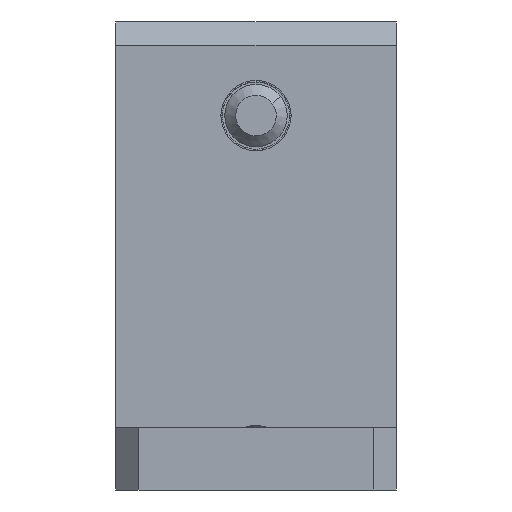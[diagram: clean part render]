
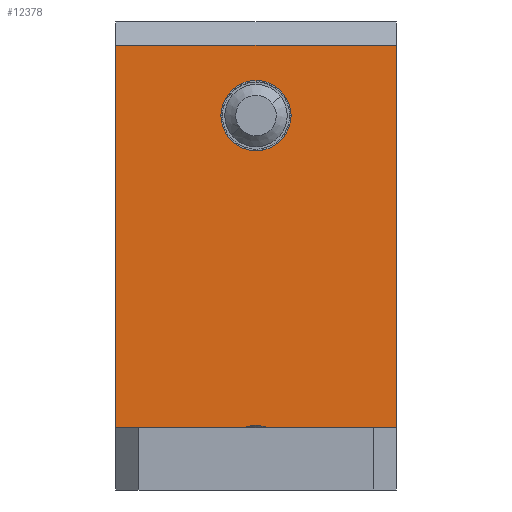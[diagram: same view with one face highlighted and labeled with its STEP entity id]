
A CAD part, left-side view. The second image highlights one B-rep face of the part: STEP entity #12378.
In plain terms, the highlighted planar face has unit normal (-1, 0, 0).
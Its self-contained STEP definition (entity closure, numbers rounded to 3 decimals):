
#73 = CARTESIAN_POINT ( 'NONE',  ( 4.039, 31.718, -11. ) ) ;
#153 = LINE ( 'NONE', #721, #10329 ) ;
#166 = CARTESIAN_POINT ( 'NONE',  ( 4.039, 30.968, 9. ) ) ;
#198 = CARTESIAN_POINT ( 'NONE',  ( 4.039, 30.968, 6.75 ) ) ;
#380 = CARTESIAN_POINT ( 'NONE',  ( 4.039, 30.968, 11.25 ) ) ;
#414 = EDGE_CURVE ( 'NONE', #8053, #8226, #6478, .T. ) ;
#453 = EDGE_LOOP ( 'NONE', ( #2518, #4882, #10097, #5724, #7055, #9910 ) ) ;
#721 = CARTESIAN_POINT ( 'NONE',  ( 4.039, 30.968, -11. ) ) ;
#832 = EDGE_CURVE ( 'NONE', #6673, #10553, #5151, .T. ) ;
#863 = VERTEX_POINT ( 'NONE', #380 ) ;
#1013 = DIRECTION ( 'NONE',  ( 0., 0., -1. ) ) ;
#1091 = PLANE ( 'NONE',  #5333 ) ;
#1485 = DIRECTION ( 'NONE',  ( 0., 0., -1. ) ) ;
#2220 = ORIENTED_EDGE ( 'NONE', *, *, #2867, .F. ) ;
#2231 = CARTESIAN_POINT ( 'NONE',  ( 4.039, 39.968, -11. ) ) ;
#2293 = DIRECTION ( 'NONE',  ( 0., -1., 0. ) ) ;
#2424 = CARTESIAN_POINT ( 'NONE',  ( 4.039, 21.968, 13.5 ) ) ;
#2518 = ORIENTED_EDGE ( 'NONE', *, *, #832, .F. ) ;
#2867 = EDGE_CURVE ( 'NONE', #863, #8248, #7352, .T. ) ;
#3054 = CARTESIAN_POINT ( 'NONE',  ( 4.039, 30.218, -11. ) ) ;
#3098 = CARTESIAN_POINT ( 'NONE',  ( 4.039, 31.23, -10.85 ) ) ;
#3441 = CARTESIAN_POINT ( 'NONE',  ( 4.039, 39.968, 13.5 ) ) ;
#3454 = CARTESIAN_POINT ( 'NONE',  ( 4.039, 21.968, -11. ) ) ;
#3650 = CARTESIAN_POINT ( 'NONE',  ( 4.039, 31.718, -11. ) ) ;
#3670 = EDGE_CURVE ( 'NONE', #8226, #6673, #3698, .T. ) ;
#3698 = LINE ( 'NONE', #8533, #9122 ) ;
#3894 = CARTESIAN_POINT ( 'NONE',  ( 4.039, 21.968, 13.5 ) ) ;
#4677 = DIRECTION ( 'NONE',  ( 0., 1., 0. ) ) ;
#4701 = EDGE_CURVE ( 'NONE', #10553, #5659, #4719, .T. ) ;
#4719 = LINE ( 'NONE', #12268, #8910 ) ;
#4882 = ORIENTED_EDGE ( 'NONE', *, *, #3670, .F. ) ;
#5151 = LINE ( 'NONE', #7245, #11818 ) ;
#5219 = DIRECTION ( 'NONE',  ( 0., 0., -1. ) ) ;
#5333 = AXIS2_PLACEMENT_3D ( 'NONE', #3894, #8942, #1013 ) ;
#5474 = CARTESIAN_POINT ( 'NONE',  ( 4.039, 30.968, 9. ) ) ;
#5659 = VERTEX_POINT ( 'NONE', #3454 ) ;
#5724 = ORIENTED_EDGE ( 'NONE', *, *, #11480, .F. ) ;
#6026 = CARTESIAN_POINT ( 'NONE',  ( 4.039, 30.714, -10.865 ) ) ;
#6272 = CARTESIAN_POINT ( 'NONE',  ( 4.039, 30.844, -10.849 ) ) ;
#6296 = DIRECTION ( 'NONE',  ( -1., 0., 0. ) ) ;
#6419 = AXIS2_PLACEMENT_3D ( 'NONE', #5474, #6296, #1485 ) ;
#6478 = LINE ( 'NONE', #11581, #10183 ) ;
#6548 = EDGE_LOOP ( 'NONE', ( #9333, #2220 ) ) ;
#6673 = VERTEX_POINT ( 'NONE', #3441 ) ;
#7021 = FACE_OUTER_BOUND ( 'NONE', #453, .T. ) ;
#7055 = ORIENTED_EDGE ( 'NONE', *, *, #7653, .F. ) ;
#7237 = DIRECTION ( 'NONE',  ( 0., 0., -1. ) ) ;
#7245 = CARTESIAN_POINT ( 'NONE',  ( 4.039, 30.968, 13.5 ) ) ;
#7352 = CIRCLE ( 'NONE', #6419, 2.25 ) ;
#7568 = DIRECTION ( 'NONE',  ( 0., 0., 1. ) ) ;
#7653 = EDGE_CURVE ( 'NONE', #5659, #9489, #153, .T. ) ;
#7998 = CARTESIAN_POINT ( 'NONE',  ( 4.039, 30.34, -10.956 ) ) ;
#8053 = VERTEX_POINT ( 'NONE', #3650 ) ;
#8226 = VERTEX_POINT ( 'NONE', #2231 ) ;
#8248 = VERTEX_POINT ( 'NONE', #198 ) ;
#8413 = CARTESIAN_POINT ( 'NONE',  ( 4.039, 30.218, -11. ) ) ;
#8533 = CARTESIAN_POINT ( 'NONE',  ( 4.039, 39.968, 1.25 ) ) ;
#8910 = VECTOR ( 'NONE', #7237, 1000. ) ;
#8942 = DIRECTION ( 'NONE',  ( 1., 0., 0. ) ) ;
#9122 = VECTOR ( 'NONE', #7568, 1000. ) ;
#9333 = ORIENTED_EDGE ( 'NONE', *, *, #12541, .F. ) ;
#9489 = VERTEX_POINT ( 'NONE', #8413 ) ;
#9910 = ORIENTED_EDGE ( 'NONE', *, *, #4701, .F. ) ;
#10097 = ORIENTED_EDGE ( 'NONE', *, *, #414, .F. ) ;
#10183 = VECTOR ( 'NONE', #4677, 1000. ) ;
#10279 = B_SPLINE_CURVE_WITH_KNOTS ( 'NONE', 3,
 ( #3054, #7998, #12212, #6026, #6272, #3098, #11191, #73 ),
 .UNSPECIFIED., .F., .F.,
 ( 4, 2, 2, 4 ),
 ( 0., 0., 0.001, 0.002 ),
 .UNSPECIFIED. ) ;
#10329 = VECTOR ( 'NONE', #10734, 1000. ) ;
#10553 = VERTEX_POINT ( 'NONE', #2424 ) ;
#10734 = DIRECTION ( 'NONE',  ( 0., 1., 0. ) ) ;
#10921 = AXIS2_PLACEMENT_3D ( 'NONE', #166, #11115, #5219 ) ;
#11115 = DIRECTION ( 'NONE',  ( -1., 0., 0. ) ) ;
#11191 = CARTESIAN_POINT ( 'NONE',  ( 4.039, 31.476, -10.913 ) ) ;
#11480 = EDGE_CURVE ( 'NONE', #9489, #8053, #10279, .T. ) ;
#11516 = CIRCLE ( 'NONE', #10921, 2.25 ) ;
#11581 = CARTESIAN_POINT ( 'NONE',  ( 4.039, 30.968, -11. ) ) ;
#11818 = VECTOR ( 'NONE', #2293, 1000. ) ;
#12212 = CARTESIAN_POINT ( 'NONE',  ( 4.039, 30.463, -10.918 ) ) ;
#12268 = CARTESIAN_POINT ( 'NONE',  ( 4.039, 21.968, 1.25 ) ) ;
#12284 = FACE_BOUND ( 'NONE', #6548, .T. ) ;
#12378 = ADVANCED_FACE ( 'NONE', ( #12284, #7021 ), #1091, .F. ) ;
#12541 = EDGE_CURVE ( 'NONE', #8248, #863, #11516, .T. ) ;
